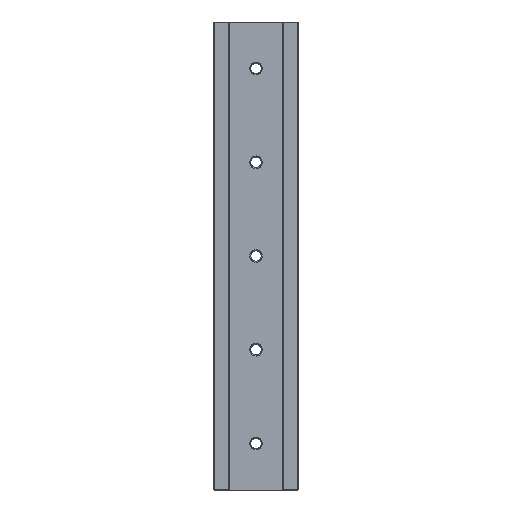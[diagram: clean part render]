
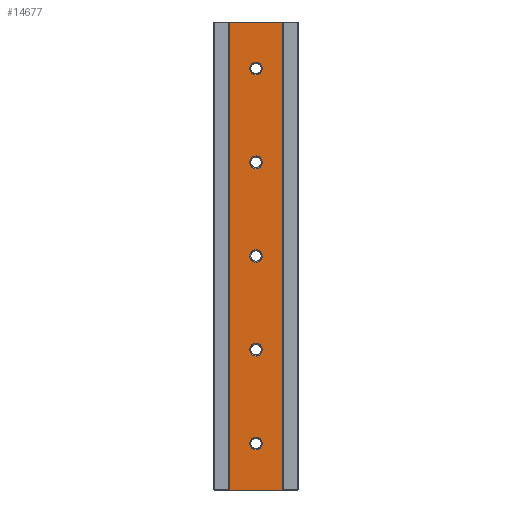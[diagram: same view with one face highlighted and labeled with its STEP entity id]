
A CAD part, front view. The second image highlights one B-rep face of the part: STEP entity #14677.
In plain terms, the highlighted planar face has unit normal (0, -1, 0).
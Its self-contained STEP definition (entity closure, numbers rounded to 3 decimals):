
#333 = CARTESIAN_POINT ( 'NONE',  ( 17., 0., 149.75 ) ) ;
#361 = CARTESIAN_POINT ( 'NONE',  ( 17., 0., 89.75 ) ) ;
#395 = VERTEX_POINT ( 'NONE', #21400 ) ;
#507 = EDGE_CURVE ( 'NONE', #4308, #20925, #6111, .T. ) ;
#1190 = VECTOR ( 'NONE', #2840, 1000. ) ;
#1489 = CARTESIAN_POINT ( 'NONE',  ( 17., 0., 89.75 ) ) ;
#2205 = DIRECTION ( 'NONE',  ( 0., 0., 1. ) ) ;
#2230 = DIRECTION ( 'NONE',  ( 0., 0., 1. ) ) ;
#2488 = CARTESIAN_POINT ( 'NONE',  ( 0., 0., 0. ) ) ;
#2698 = ORIENTED_EDGE ( 'NONE', *, *, #14306, .T. ) ;
#2740 = CIRCLE ( 'NONE', #3722, 4.05 ) ;
#2756 = ORIENTED_EDGE ( 'NONE', *, *, #21470, .T. ) ;
#2789 = EDGE_CURVE ( 'NONE', #12447, #4774, #20916, .T. ) ;
#2803 = FACE_BOUND ( 'NONE', #17527, .T. ) ;
#2840 = DIRECTION ( 'NONE',  ( 0., 0., -1. ) ) ;
#2873 = CARTESIAN_POINT ( 'NONE',  ( 17., 0., 25.7 ) ) ;
#3107 = CIRCLE ( 'NONE', #19825, 4.05 ) ;
#3151 = DIRECTION ( 'NONE',  ( 0., 1., 0. ) ) ;
#3355 = DIRECTION ( 'NONE',  ( 0., 0., 1. ) ) ;
#3489 = AXIS2_PLACEMENT_3D ( 'NONE', #16807, #5477, #18680 ) ;
#3722 = AXIS2_PLACEMENT_3D ( 'NONE', #5321, #18521, #7241 ) ;
#3862 = ORIENTED_EDGE ( 'NONE', *, *, #15192, .T. ) ;
#3956 = EDGE_CURVE ( 'NONE', #7980, #13052, #4950, .T. ) ;
#4308 = VERTEX_POINT ( 'NONE', #12419 ) ;
#4335 = AXIS2_PLACEMENT_3D ( 'NONE', #4478, #17676, #6383 ) ;
#4367 = CIRCLE ( 'NONE', #4335, 4.05 ) ;
#4478 = CARTESIAN_POINT ( 'NONE',  ( 17., 0., 209.75 ) ) ;
#4668 = CARTESIAN_POINT ( 'NONE',  ( 17., 0., 85.7 ) ) ;
#4682 = VERTEX_POINT ( 'NONE', #2873 ) ;
#4774 = VERTEX_POINT ( 'NONE', #5154 ) ;
#4813 = EDGE_CURVE ( 'NONE', #13862, #15901, #17054, .T. ) ;
#4950 = LINE ( 'NONE', #18315, #23831 ) ;
#5051 = DIRECTION ( 'NONE',  ( 0., 1., 0. ) ) ;
#5154 = CARTESIAN_POINT ( 'NONE',  ( 17., 0., 205.7 ) ) ;
#5321 = CARTESIAN_POINT ( 'NONE',  ( 17., 0., 29.75 ) ) ;
#5477 = DIRECTION ( 'NONE',  ( 0., 1., 0. ) ) ;
#5635 = DIRECTION ( 'NONE',  ( 0., 1., 0. ) ) ;
#5730 = CARTESIAN_POINT ( 'NONE',  ( 17., 0., 213.8 ) ) ;
#5861 = CARTESIAN_POINT ( 'NONE',  ( 17., 0., 153.8 ) ) ;
#5983 = EDGE_CURVE ( 'NONE', #11499, #395, #14630, .T. ) ;
#6048 = FACE_BOUND ( 'NONE', #15713, .T. ) ;
#6111 = CIRCLE ( 'NONE', #7381, 4.05 ) ;
#6383 = DIRECTION ( 'NONE',  ( 0., 0., 1. ) ) ;
#6829 = CARTESIAN_POINT ( 'NONE',  ( 17., 0., 269.75 ) ) ;
#6880 = PLANE ( 'NONE',  #13169 ) ;
#6891 = ORIENTED_EDGE ( 'NONE', *, *, #16461, .F. ) ;
#7029 = DIRECTION ( 'NONE',  ( 1., 0., 0. ) ) ;
#7091 = EDGE_CURVE ( 'NONE', #4682, #18346, #2740, .T. ) ;
#7241 = DIRECTION ( 'NONE',  ( 0., 0., 1. ) ) ;
#7381 = AXIS2_PLACEMENT_3D ( 'NONE', #333, #13533, #2205 ) ;
#7409 = ORIENTED_EDGE ( 'NONE', *, *, #7091, .T. ) ;
#7425 = AXIS2_PLACEMENT_3D ( 'NONE', #16948, #5635, #18818 ) ;
#7904 = ORIENTED_EDGE ( 'NONE', *, *, #507, .T. ) ;
#7980 = VERTEX_POINT ( 'NONE', #2488 ) ;
#8063 = ORIENTED_EDGE ( 'NONE', *, *, #12288, .T. ) ;
#8367 = LINE ( 'NONE', #18227, #17212 ) ;
#8740 = DIRECTION ( 'NONE',  ( 0., 0., 1. ) ) ;
#8787 = CARTESIAN_POINT ( 'NONE',  ( 0., 0., 299.5 ) ) ;
#9539 = ORIENTED_EDGE ( 'NONE', *, *, #3956, .T. ) ;
#9621 = EDGE_LOOP ( 'NONE', ( #2756, #8063 ) ) ;
#9681 = CARTESIAN_POINT ( 'NONE',  ( 17., 0., 33.8 ) ) ;
#9973 = EDGE_CURVE ( 'NONE', #4774, #12447, #4367, .T. ) ;
#10795 = CIRCLE ( 'NONE', #3489, 4.05 ) ;
#10930 = CARTESIAN_POINT ( 'NONE',  ( 17., 0., 29.75 ) ) ;
#11096 = FACE_BOUND ( 'NONE', #9621, .T. ) ;
#11216 = ORIENTED_EDGE ( 'NONE', *, *, #11522, .T. ) ;
#11499 = VERTEX_POINT ( 'NONE', #8787 ) ;
#11522 = EDGE_CURVE ( 'NONE', #18346, #4682, #17633, .T. ) ;
#11678 = AXIS2_PLACEMENT_3D ( 'NONE', #6829, #20012, #8740 ) ;
#12288 = EDGE_CURVE ( 'NONE', #14132, #19719, #15853, .T. ) ;
#12419 = CARTESIAN_POINT ( 'NONE',  ( 17., 0., 145.7 ) ) ;
#12447 = VERTEX_POINT ( 'NONE', #5730 ) ;
#12831 = DIRECTION ( 'NONE',  ( 0., 0., 1. ) ) ;
#13052 = VERTEX_POINT ( 'NONE', #17211 ) ;
#13169 = AXIS2_PLACEMENT_3D ( 'NONE', #18157, #3151, #16370 ) ;
#13533 = DIRECTION ( 'NONE',  ( 0., 1., 0. ) ) ;
#13564 = DIRECTION ( 'NONE',  ( 0., 1., 0. ) ) ;
#13862 = VERTEX_POINT ( 'NONE', #22006 ) ;
#14132 = VERTEX_POINT ( 'NONE', #19369 ) ;
#14171 = CARTESIAN_POINT ( 'NONE',  ( 0., 0., 299.5 ) ) ;
#14188 = EDGE_LOOP ( 'NONE', ( #3862, #17275 ) ) ;
#14306 = EDGE_CURVE ( 'NONE', #20925, #4308, #10795, .T. ) ;
#14630 = LINE ( 'NONE', #18702, #19055 ) ;
#14670 = DIRECTION ( 'NONE',  ( 0., 1., 0. ) ) ;
#14677 = ADVANCED_FACE ( 'NONE', ( #11096, #6048, #2803, #17271, #21087, #15510 ), #6880, .F. ) ;
#14701 = DIRECTION ( 'NONE',  ( 0., 0., -1. ) ) ;
#14848 = EDGE_LOOP ( 'NONE', ( #9539, #6891, #21362, #22682 ) ) ;
#15192 = EDGE_CURVE ( 'NONE', #15901, #13862, #16076, .T. ) ;
#15510 = FACE_OUTER_BOUND ( 'NONE', #14848, .T. ) ;
#15713 = EDGE_LOOP ( 'NONE', ( #22679, #23716 ) ) ;
#15853 = CIRCLE ( 'NONE', #11678, 4.05 ) ;
#15901 = VERTEX_POINT ( 'NONE', #4668 ) ;
#16076 = CIRCLE ( 'NONE', #17725, 4.05 ) ;
#16241 = LINE ( 'NONE', #14171, #1190 ) ;
#16370 = DIRECTION ( 'NONE',  ( 0., 0., 1. ) ) ;
#16374 = CARTESIAN_POINT ( 'NONE',  ( 17., 0., 269.75 ) ) ;
#16461 = EDGE_CURVE ( 'NONE', #395, #13052, #8367, .T. ) ;
#16807 = CARTESIAN_POINT ( 'NONE',  ( 17., 0., 149.75 ) ) ;
#16948 = CARTESIAN_POINT ( 'NONE',  ( 17., 0., 209.75 ) ) ;
#17054 = CIRCLE ( 'NONE', #21488, 4.05 ) ;
#17211 = CARTESIAN_POINT ( 'NONE',  ( 34., 0., 0. ) ) ;
#17212 = VECTOR ( 'NONE', #14701, 1000. ) ;
#17271 = FACE_BOUND ( 'NONE', #14188, .T. ) ;
#17275 = ORIENTED_EDGE ( 'NONE', *, *, #4813, .T. ) ;
#17527 = EDGE_LOOP ( 'NONE', ( #7904, #2698 ) ) ;
#17633 = CIRCLE ( 'NONE', #20154, 4.05 ) ;
#17676 = DIRECTION ( 'NONE',  ( 0., 1., 0. ) ) ;
#17725 = AXIS2_PLACEMENT_3D ( 'NONE', #361, #13564, #2230 ) ;
#18157 = CARTESIAN_POINT ( 'NONE',  ( 0., 0., 299.5 ) ) ;
#18227 = CARTESIAN_POINT ( 'NONE',  ( 34., 0., 299.5 ) ) ;
#18246 = DIRECTION ( 'NONE',  ( 0., 0., 1. ) ) ;
#18315 = CARTESIAN_POINT ( 'NONE',  ( 0., 0., 0. ) ) ;
#18346 = VERTEX_POINT ( 'NONE', #9681 ) ;
#18521 = DIRECTION ( 'NONE',  ( 0., 1., 0. ) ) ;
#18680 = DIRECTION ( 'NONE',  ( 0., 0., 1. ) ) ;
#18702 = CARTESIAN_POINT ( 'NONE',  ( 0., 0., 299.5 ) ) ;
#18818 = DIRECTION ( 'NONE',  ( 0., 0., 1. ) ) ;
#19023 = EDGE_CURVE ( 'NONE', #11499, #7980, #16241, .T. ) ;
#19055 = VECTOR ( 'NONE', #24303, 1000. ) ;
#19369 = CARTESIAN_POINT ( 'NONE',  ( 17., 0., 273.8 ) ) ;
#19719 = VERTEX_POINT ( 'NONE', #19789 ) ;
#19789 = CARTESIAN_POINT ( 'NONE',  ( 17., 0., 265.7 ) ) ;
#19825 = AXIS2_PLACEMENT_3D ( 'NONE', #16374, #5051, #18246 ) ;
#20012 = DIRECTION ( 'NONE',  ( 0., 1., 0. ) ) ;
#20154 = AXIS2_PLACEMENT_3D ( 'NONE', #10930, #24075, #12831 ) ;
#20916 = CIRCLE ( 'NONE', #7425, 4.05 ) ;
#20925 = VERTEX_POINT ( 'NONE', #5861 ) ;
#21087 = FACE_BOUND ( 'NONE', #21859, .T. ) ;
#21362 = ORIENTED_EDGE ( 'NONE', *, *, #5983, .F. ) ;
#21400 = CARTESIAN_POINT ( 'NONE',  ( 34., 0., 299.5 ) ) ;
#21470 = EDGE_CURVE ( 'NONE', #19719, #14132, #3107, .T. ) ;
#21488 = AXIS2_PLACEMENT_3D ( 'NONE', #1489, #14670, #3355 ) ;
#21859 = EDGE_LOOP ( 'NONE', ( #7409, #11216 ) ) ;
#22006 = CARTESIAN_POINT ( 'NONE',  ( 17., 0., 93.8 ) ) ;
#22679 = ORIENTED_EDGE ( 'NONE', *, *, #9973, .T. ) ;
#22682 = ORIENTED_EDGE ( 'NONE', *, *, #19023, .T. ) ;
#23716 = ORIENTED_EDGE ( 'NONE', *, *, #2789, .T. ) ;
#23831 = VECTOR ( 'NONE', #7029, 1000. ) ;
#24075 = DIRECTION ( 'NONE',  ( 0., 1., 0. ) ) ;
#24303 = DIRECTION ( 'NONE',  ( 1., 0., 0. ) ) ;
